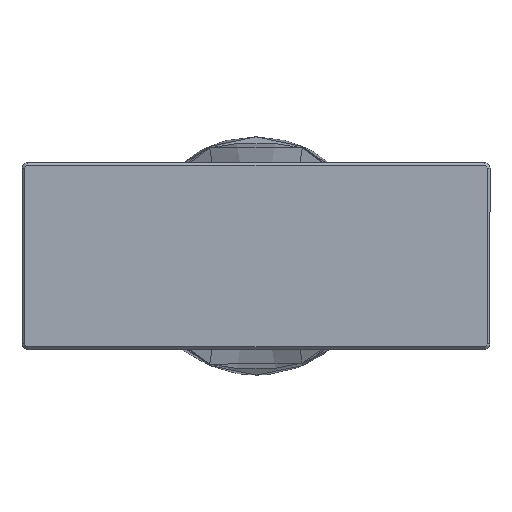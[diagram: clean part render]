
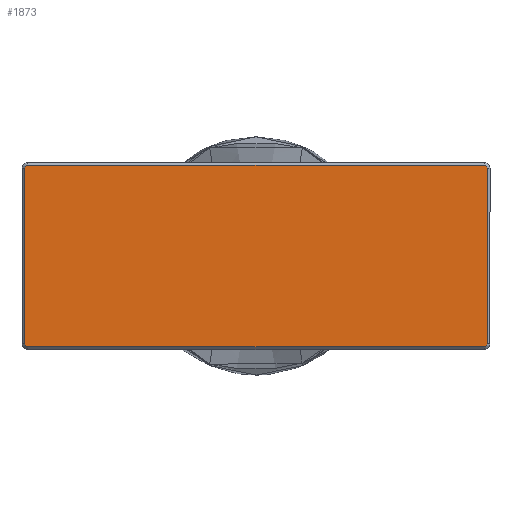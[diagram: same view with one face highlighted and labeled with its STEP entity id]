
A CAD part, front view. The second image highlights one B-rep face of the part: STEP entity #1873.
In plain terms, the highlighted planar face has unit normal (0, -1, 0).
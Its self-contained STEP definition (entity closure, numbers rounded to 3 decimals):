
#13 = CARTESIAN_POINT ( 'NONE',  ( -7.8, 0., -3.1 ) ) ;
#62 = EDGE_CURVE ( 'NONE', #261, #1026, #1117, .T. ) ;
#81 = CARTESIAN_POINT ( 'NONE',  ( -7.9, 0., 0. ) ) ;
#89 = ORIENTED_EDGE ( 'NONE', *, *, #2027, .T. ) ;
#134 = CARTESIAN_POINT ( 'NONE',  ( 7.8, 0., 3. ) ) ;
#246 = VERTEX_POINT ( 'NONE', #13 ) ;
#259 = CARTESIAN_POINT ( 'NONE',  ( 0., 0., 3.1 ) ) ;
#261 = VERTEX_POINT ( 'NONE', #1076 ) ;
#449 = VERTEX_POINT ( 'NONE', #1627 ) ;
#455 = ORIENTED_EDGE ( 'NONE', *, *, #1799, .T. ) ;
#458 = EDGE_LOOP ( 'NONE', ( #1994, #1408, #923, #89, #1318, #1795, #1225, #455 ) ) ;
#463 = DIRECTION ( 'NONE',  ( 1., 0., 0. ) ) ;
#504 = VERTEX_POINT ( 'NONE', #1618 ) ;
#508 = DIRECTION ( 'NONE',  ( 0., 0., 1. ) ) ;
#532 = VERTEX_POINT ( 'NONE', #1792 ) ;
#548 = AXIS2_PLACEMENT_3D ( 'NONE', #1014, #838, #1339 ) ;
#556 = LINE ( 'NONE', #259, #1620 ) ;
#621 = DIRECTION ( 'NONE',  ( 0., 0., 1. ) ) ;
#645 = EDGE_CURVE ( 'NONE', #1026, #1454, #556, .T. ) ;
#678 = EDGE_CURVE ( 'NONE', #449, #532, #1109, .T. ) ;
#714 = DIRECTION ( 'NONE',  ( 0., 0., 1. ) ) ;
#748 = VECTOR ( 'NONE', #1143, 1000. ) ;
#764 = CIRCLE ( 'NONE', #548, 0.1 ) ;
#838 = DIRECTION ( 'NONE',  ( 0., -1., 0. ) ) ;
#923 = ORIENTED_EDGE ( 'NONE', *, *, #1827, .T. ) ;
#951 = AXIS2_PLACEMENT_3D ( 'NONE', #134, #1532, #1499 ) ;
#952 = CIRCLE ( 'NONE', #2122, 0.1 ) ;
#985 = CARTESIAN_POINT ( 'NONE',  ( 0., 0., -3.1 ) ) ;
#1014 = CARTESIAN_POINT ( 'NONE',  ( -7.8, 0., 3. ) ) ;
#1026 = VERTEX_POINT ( 'NONE', #1409 ) ;
#1076 = CARTESIAN_POINT ( 'NONE',  ( 7.9, 0., 3. ) ) ;
#1109 = LINE ( 'NONE', #81, #748 ) ;
#1117 = CIRCLE ( 'NONE', #951, 0.1 ) ;
#1143 = DIRECTION ( 'NONE',  ( 0., 0., -1. ) ) ;
#1149 = VECTOR ( 'NONE', #463, 1000. ) ;
#1215 = CIRCLE ( 'NONE', #2048, 0.1 ) ;
#1225 = ORIENTED_EDGE ( 'NONE', *, *, #645, .T. ) ;
#1257 = CARTESIAN_POINT ( 'NONE',  ( 7.8, 0., -3. ) ) ;
#1275 = EDGE_CURVE ( 'NONE', #1790, #261, #1677, .T. ) ;
#1296 = EDGE_CURVE ( 'NONE', #532, #246, #1215, .T. ) ;
#1318 = ORIENTED_EDGE ( 'NONE', *, *, #1275, .T. ) ;
#1339 = DIRECTION ( 'NONE',  ( 0., 0., 1. ) ) ;
#1399 = PLANE ( 'NONE',  #1553 ) ;
#1408 = ORIENTED_EDGE ( 'NONE', *, *, #1296, .T. ) ;
#1409 = CARTESIAN_POINT ( 'NONE',  ( 7.8, 0., 3.1 ) ) ;
#1412 = DIRECTION ( 'NONE',  ( 0., -1., 0. ) ) ;
#1454 = VERTEX_POINT ( 'NONE', #1551 ) ;
#1499 = DIRECTION ( 'NONE',  ( 0., 0., 1. ) ) ;
#1532 = DIRECTION ( 'NONE',  ( 0., -1., 0. ) ) ;
#1551 = CARTESIAN_POINT ( 'NONE',  ( -7.8, 0., 3.1 ) ) ;
#1553 = AXIS2_PLACEMENT_3D ( 'NONE', #1739, #1928, #508 ) ;
#1574 = FACE_OUTER_BOUND ( 'NONE', #458, .T. ) ;
#1618 = CARTESIAN_POINT ( 'NONE',  ( 7.8, 0., -3.1 ) ) ;
#1620 = VECTOR ( 'NONE', #2172, 1000. ) ;
#1627 = CARTESIAN_POINT ( 'NONE',  ( -7.9, 0., 3. ) ) ;
#1677 = LINE ( 'NONE', #1757, #2182 ) ;
#1739 = CARTESIAN_POINT ( 'NONE',  ( 0., 0., 0. ) ) ;
#1757 = CARTESIAN_POINT ( 'NONE',  ( 7.9, 0., 0. ) ) ;
#1775 = DIRECTION ( 'NONE',  ( 0., 0., 1. ) ) ;
#1790 = VERTEX_POINT ( 'NONE', #1874 ) ;
#1792 = CARTESIAN_POINT ( 'NONE',  ( -7.9, 0., -3. ) ) ;
#1795 = ORIENTED_EDGE ( 'NONE', *, *, #62, .T. ) ;
#1799 = EDGE_CURVE ( 'NONE', #1454, #449, #764, .T. ) ;
#1827 = EDGE_CURVE ( 'NONE', #246, #504, #2224, .T. ) ;
#1856 = DIRECTION ( 'NONE',  ( 0., -1., 0. ) ) ;
#1873 = ADVANCED_FACE ( 'NONE', ( #1574 ), #1399, .F. ) ;
#1874 = CARTESIAN_POINT ( 'NONE',  ( 7.9, 0., -3. ) ) ;
#1928 = DIRECTION ( 'NONE',  ( 0., 1., 0. ) ) ;
#1994 = ORIENTED_EDGE ( 'NONE', *, *, #678, .T. ) ;
#2016 = CARTESIAN_POINT ( 'NONE',  ( -7.8, 0., -3. ) ) ;
#2027 = EDGE_CURVE ( 'NONE', #504, #1790, #952, .T. ) ;
#2048 = AXIS2_PLACEMENT_3D ( 'NONE', #2016, #1856, #621 ) ;
#2122 = AXIS2_PLACEMENT_3D ( 'NONE', #1257, #1412, #1775 ) ;
#2172 = DIRECTION ( 'NONE',  ( -1., 0., 0. ) ) ;
#2182 = VECTOR ( 'NONE', #714, 1000. ) ;
#2224 = LINE ( 'NONE', #985, #1149 ) ;
